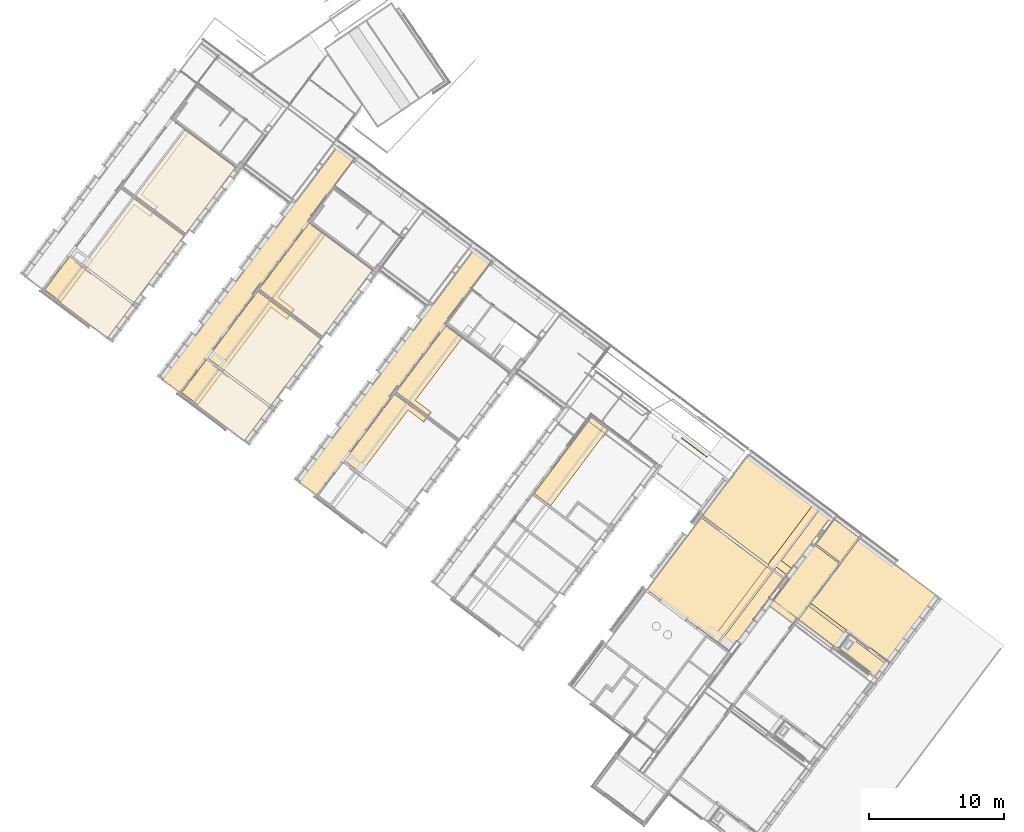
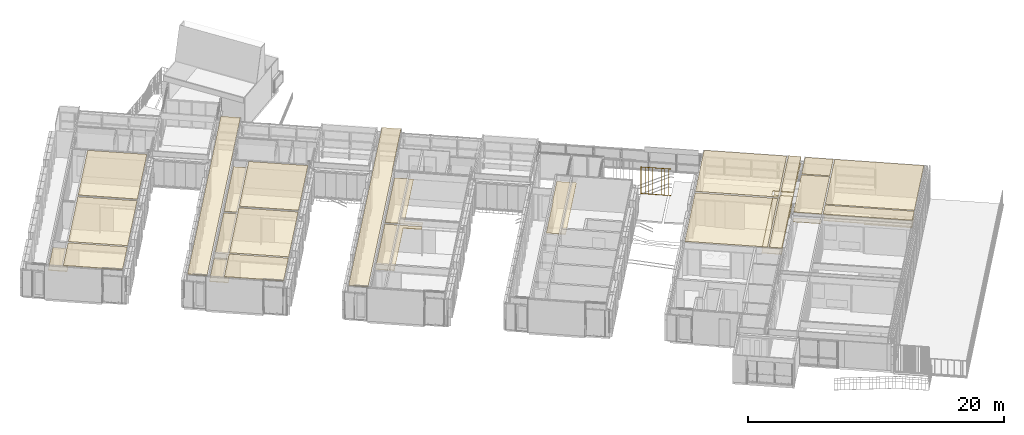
# One storey, part 218 of 243: 21 coverings, 1 railing.
"""IFC2X3 building model written with IfcOpenShell, lengths in metres."""

import ifcopenshell
import ifcopenshell.guid

model = None  # the IFC model being written
_history = None  # IfcOwnerHistory: only IFC2X3 demands one
_inside = {}  # id of a spatial element -> (the spatial element, [elements in it])
_under = {}  # id of a project, library or spatial element -> (it, [spatial elements below it])
_declared = {}  # id of a project -> (the project, [libraries it declares])
_typed = {}  # id of a type object -> (the type object, [elements of that type])
_made_of = {}  # id of a material, layer set ... -> (it, [elements and type objects made of it])


def new_model(schema):
    """Start an empty IFC model of exactly this schema.

    Asked for "IFC4X3", IfcOpenShell would pick the latest addendum, in which some entities
    have other attributes; the version numbers below select the first issue.
    IFC2X3 requires an IfcOwnerHistory on every rooted entity: one is made here for all.
    """
    global model, _history
    if schema == "IFC4X3":
        model = ifcopenshell.file(schema_version=(4, 3, 0, 0))
    else:
        model = ifcopenshell.file(schema=schema)
    _inside.clear()
    _under.clear()
    _declared.clear()
    _typed.clear()
    _made_of.clear()
    _history = None
    if model.schema == "IFC2X3":
        org = make("IfcOrganization", Name="unknown")
        user = make(
            "IfcPersonAndOrganization",
            ThePerson=make("IfcPerson", FamilyName="unknown"),
            TheOrganization=org,
        )
        app = make(
            "IfcApplication",
            ApplicationDeveloper=org,
            Version="unknown",
            ApplicationFullName="unknown",
            ApplicationIdentifier="unknown",
        )
        _history = make(
            "IfcOwnerHistory",
            OwningUser=user,
            OwningApplication=app,
            ChangeAction="ADDED",
            CreationDate=0,
        )
    return model


def make(cls, **values):
    """One entity of the class cls with the attributes given. An attribute that is None is left unset."""
    return model.create_entity(
        cls, **{name: value for name, value in values.items() if value is not None}
    )


def entity(cls, *values):
    """Any entity or typed value of the class cls, its attributes in the order of the schema. None: left unset."""
    e = model.create_entity(cls)
    for i, value in enumerate(values):
        if value is not None:
            e[i] = value
    return e


def rooted(cls, **values):
    """An entity with a GlobalId (a new one), such as an element, a storey or a relation."""
    return make(cls, GlobalId=ifcopenshell.guid.new(), OwnerHistory=_history, **values)


def si_unit(unit_type, name, prefix=None):
    """IfcSIUnit, for example si_unit("LENGTHUNIT", "METRE", prefix="MILLI")."""
    return make("IfcSIUnit", UnitType=unit_type, Prefix=prefix, Name=name)


def converted_unit(unit_type, name, factor, base, dimensions=None, offset=None):
    """IfcConversionBasedUnit, such as the inch: factor (a typed value) times the base unit."""
    return make(
        "IfcConversionBasedUnit"
        if offset is None
        else "IfcConversionBasedUnitWithOffset",
        ConversionOffset=offset,
        Dimensions=None
        if dimensions is None
        else entity("IfcDimensionalExponents", *dimensions),
        UnitType=unit_type,
        Name=name,
        ConversionFactor=make(
            "IfcMeasureWithUnit", ValueComponent=factor, UnitComponent=base
        ),
    )


def derived_unit(unit_type, elements):
    """IfcDerivedUnit: a product of units, each with its exponent."""
    return make(
        "IfcDerivedUnit",
        Elements=[
            make("IfcDerivedUnitElement", Unit=unit, Exponent=power)
            for unit, power in elements
        ],
        UnitType=unit_type,
    )


def assignment(units):
    """IfcUnitAssignment: the units of a project."""
    return None if units is None else make("IfcUnitAssignment", Units=units)


def point(xyz):
    """IfcCartesianPoint."""
    return None if xyz is None else make("IfcCartesianPoint", Coordinates=xyz)


def direction(xyz):
    """IfcDirection."""
    return None if xyz is None else make("IfcDirection", DirectionRatios=xyz)


def frame(location, z_axis=None, x_axis=None):
    """IfcAxis2Placement3D, a coordinate frame: its origin and axes. An axis left out is left unset."""
    return make(
        "IfcAxis2Placement3D",
        Location=point(location),
        Axis=direction(z_axis),
        RefDirection=direction(x_axis),
    )


def frame_2d(location, x_axis=None):
    """IfcAxis2Placement2D, a coordinate frame in the plane: its origin and x axis."""
    return make(
        "IfcAxis2Placement2D", Location=point(location), RefDirection=direction(x_axis)
    )


def origin():
    """The frame at (0, 0, 0) with its axes left unset."""
    return frame((0.0, 0.0, 0.0))


def place(relative_to, where):
    """IfcLocalPlacement: puts the frame where relative to a parent placement (None: the world)."""
    return make(
        "IfcLocalPlacement", PlacementRelTo=relative_to, RelativePlacement=where
    )


def context(
    kind, dimensions, precision=None, world=None, true_north=None, identifier=None
):
    """IfcGeometricRepresentationContext, for example the 3D "Model" context."""
    return make(
        "IfcGeometricRepresentationContext",
        ContextIdentifier=identifier,
        ContextType=kind,
        CoordinateSpaceDimension=dimensions,
        Precision=precision,
        WorldCoordinateSystem=world,
        TrueNorth=true_north,
    )


def subcontext(parent, identifier, kind, view, scale=None):
    """IfcGeometricRepresentationSubContext, for example "Body" below "Model"."""
    return make(
        "IfcGeometricRepresentationSubContext",
        ContextIdentifier=identifier,
        ContextType=kind,
        ParentContext=parent,
        TargetScale=scale,
        TargetView=view,
    )


def project(units=None, contexts=None):
    """IfcProject with its units and contexts."""
    return rooted(
        "IfcProject",
        Name="project",
        RepresentationContexts=contexts,
        UnitsInContext=assignment(units),
    )


def spatial(cls, under=None, at=None, **own):
    """A site, building, storey or space (cls), placed at a placement, below another one or the project."""
    s = rooted(cls, ObjectPlacement=at, **own)
    if under is not None:
        _under.setdefault(under.id(), (under, []))[1].append(s)
    return s


def polyline(points):
    """IfcPolyline through the points."""
    return make("IfcPolyline", Points=[point(p) for p in points])


def profile(cls, at=None, kind="AREA", **sizes):
    """A parametric profile (cls). Its sizes go by their IFC names, for example OverallWidth=200.0."""
    return make(cls, ProfileType=kind, Position=at, **sizes)


def rectangle(**sizes):
    """IfcRectangleProfileDef."""
    return profile("IfcRectangleProfileDef", **sizes)


def outline(outer, holes=None, kind="AREA"):
    """IfcArbitraryClosedProfileDef: a profile drawn as a closed curve; with holes, ...WithVoids."""
    if holes is None:
        return make("IfcArbitraryClosedProfileDef", ProfileType=kind, OuterCurve=outer)
    return make(
        "IfcArbitraryProfileDefWithVoids",
        ProfileType=kind,
        OuterCurve=outer,
        InnerCurves=holes,
    )


def extrude(swept, where, along, depth):
    """IfcExtrudedAreaSolid: the profile swept, set in the frame where, extruded along a direction by depth."""
    return make(
        "IfcExtrudedAreaSolid",
        SweptArea=swept,
        Position=where,
        ExtrudedDirection=direction(along),
        Depth=depth,
    )


def shape(context_of_items, identifier, shape_type, items):
    """IfcShapeRepresentation: the items that make up one representation, for example the "Body"."""
    return make(
        "IfcShapeRepresentation",
        ContextOfItems=context_of_items,
        RepresentationIdentifier=identifier,
        RepresentationType=shape_type,
        Items=items,
    )


def material(Name=None, Category=None):
    """IfcMaterial."""
    return make("IfcMaterial", Name=Name, Category=Category)


def layer(
    of_material, thickness, ventilated=None, Name=None, Category=None, Priority=None
):
    """IfcMaterialLayer: one layer of a wall or slab, of a material (None: an air gap)."""
    return make(
        "IfcMaterialLayer",
        Material=of_material,
        LayerThickness=thickness,
        IsVentilated=ventilated,
        Name=Name,
        Category=Category,
        Priority=Priority,
    )


def layer_set(layers, Name=None):
    """IfcMaterialLayerSet."""
    return make("IfcMaterialLayerSet", MaterialLayers=layers, LayerSetName=Name)


def layer_usage(for_layer_set, set_direction, sense, offset, extent=None):
    """IfcMaterialLayerSetUsage: how a layer set lies in its element."""
    return make(
        "IfcMaterialLayerSetUsage",
        ForLayerSet=for_layer_set,
        LayerSetDirection=set_direction,
        DirectionSense=sense,
        OffsetFromReferenceLine=offset,
        ReferenceExtent=extent,
    )


def made_of(thing, what):
    """Note that an element or type object is made of a material, layer set ...; save() writes the relation."""
    if what is not None:
        _made_of.setdefault(what.id(), (what, []))[1].append(thing)
    return thing


def type_object(cls, material=None, **own):
    """A type object (cls), such as IfcWallType, which elements share."""
    return made_of(rooted(cls, **own), material)


def element(
    cls,
    number,
    at=None,
    inside=None,
    cuts=None,
    type_object=None,
    material=None,
    context=None,
    identifier="Body",
    shape_type=None,
    held_by="IfcProductDefinitionShape",
    body=None,
    shapes=None,
    **own,
):
    """One element of the class cls, such as IfcWall. Its Tag is "e" and its number.

    at: its placement. inside: the storey or other place that contains it. cuts: it is an
    opening in that element (IfcRelVoidsElement). A single representation is given by context,
    identifier, shape_type and body (its items); several are given by shapes. held_by: the class
    of the entity that holds the representations. save() writes the other relations.
    """
    e = rooted(cls, Tag="e%d" % number, ObjectPlacement=at, **own)
    if body is not None:
        shapes = [shape(context, identifier, shape_type, body)]
    if shapes is not None:
        e.Representation = make(held_by, Representations=shapes)
    if inside is not None:
        _inside.setdefault(inside.id(), (inside, []))[1].append(e)
    if cuts is not None:
        rooted(
            "IfcRelVoidsElement", RelatingBuildingElement=cuts, RelatedOpeningElement=e
        )
    if type_object is not None:
        _typed.setdefault(type_object.id(), (type_object, []))[1].append(e)
    return made_of(e, material)


def aggregate(whole, parts):
    """IfcRelAggregates: a whole, such as a stair, and the parts it consists of."""
    return rooted("IfcRelAggregates", RelatingObject=whole, RelatedObjects=parts)


def save(model, path):
    """Write the relations noted so far, then the file.

    IfcRelAggregates (storeys below a building ...), IfcRelContainedInSpatialStructure (elements
    in a storey), IfcRelDefinesByType, IfcRelAssociatesMaterial and IfcRelDeclares: one each for
    every whole, place, type object, material and project.
    """
    for whole, parts in _under.values():
        aggregate(whole, parts)
    for where, things in _inside.values():
        rooted(
            "IfcRelContainedInSpatialStructure",
            RelatedElements=things,
            RelatingStructure=where,
        )
    for kind, things in _typed.values():
        rooted("IfcRelDefinesByType", RelatedObjects=things, RelatingType=kind)
    for what, things in _made_of.values():
        rooted("IfcRelAssociatesMaterial", RelatedObjects=things, RelatingMaterial=what)
    for by, libraries in _declared.values():
        rooted("IfcRelDeclares", RelatingContext=by, RelatedDefinitions=libraries)
    model.write(path)


model = new_model("IFC2X3")

# Units and contexts
model_context = context("Model", 3, precision=1e-05, world=origin(), true_north=direction((6.123031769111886e-17, 1.0)))
body_context = subcontext(model_context, "Body", "Model", "MODEL_VIEW")
ifc_project = project(units=[si_unit("LENGTHUNIT", "METRE"), si_unit("AREAUNIT", "SQUARE_METRE"), si_unit("VOLUMEUNIT", "CUBIC_METRE"), converted_unit("PLANEANGLEUNIT", "DEGREE", entity("IfcRatioMeasure", 0.017453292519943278), si_unit("PLANEANGLEUNIT", "RADIAN"), dimensions=[0, 0, 0, 0, 0, 0, 0]), si_unit("MASSUNIT", "GRAM", prefix="KILO"), derived_unit("MASSDENSITYUNIT", [(si_unit("MASSUNIT", "GRAM", prefix="KILO"), 1), (si_unit("LENGTHUNIT", "METRE"), -3)]), derived_unit("IONCONCENTRATIONUNIT", [(si_unit("MASSUNIT", "GRAM", prefix="KILO"), 1), (si_unit("LENGTHUNIT", "METRE"), -3)]), derived_unit("MOMENTOFINERTIAUNIT", [(si_unit("LENGTHUNIT", "METRE"), 4)]), si_unit("TIMEUNIT", "SECOND"), si_unit("FREQUENCYUNIT", "HERTZ"), si_unit("THERMODYNAMICTEMPERATUREUNIT", "DEGREE_CELSIUS"), derived_unit("THERMALTRANSMITTANCEUNIT", [(si_unit("MASSUNIT", "GRAM", prefix="KILO"), 1), (si_unit("THERMODYNAMICTEMPERATUREUNIT", "KELVIN"), -1), (si_unit("TIMEUNIT", "SECOND"), -3)]), derived_unit("THERMALCONDUCTANCEUNIT", [(si_unit("MASSUNIT", "GRAM", prefix="KILO"), 1), (si_unit("THERMODYNAMICTEMPERATUREUNIT", "KELVIN"), -1), (si_unit("TIMEUNIT", "SECOND"), -3), (si_unit("LENGTHUNIT", "METRE"), 1)]), derived_unit("VOLUMETRICFLOWRATEUNIT", [(si_unit("LENGTHUNIT", "METRE"), 3), (si_unit("TIMEUNIT", "SECOND"), -1)]), derived_unit("MASSFLOWRATEUNIT", [(si_unit("MASSUNIT", "GRAM", prefix="KILO"), 1), (si_unit("TIMEUNIT", "SECOND"), -1)]), derived_unit("ROTATIONALFREQUENCYUNIT", [(si_unit("TIMEUNIT", "SECOND"), -1)]), si_unit("ELECTRICCURRENTUNIT", "AMPERE"), si_unit("ELECTRICVOLTAGEUNIT", "VOLT"), si_unit("POWERUNIT", "WATT"), si_unit("FORCEUNIT", "NEWTON", prefix="KILO"), si_unit("ILLUMINANCEUNIT", "LUX"), si_unit("LUMINOUSFLUXUNIT", "LUMEN"), si_unit("LUMINOUSINTENSITYUNIT", "CANDELA"), derived_unit("USERDEFINED", [(si_unit("MASSUNIT", "GRAM", prefix="KILO"), -1), (si_unit("LENGTHUNIT", "METRE"), -2), (si_unit("TIMEUNIT", "SECOND"), 3), (si_unit("LUMINOUSFLUXUNIT", "LUMEN"), 1)]), derived_unit("USERDEFINED", [(si_unit("MASSUNIT", "GRAM", prefix="KILO"), 1), (si_unit("TIMEUNIT", "SECOND"), -3), (si_unit("LENGTHUNIT", "METRE"), 3), (si_unit("ELECTRICCURRENTUNIT", "AMPERE"), -2)]), derived_unit("SOUNDPOWERUNIT", [(si_unit("MASSUNIT", "GRAM", prefix="KILO"), 1), (si_unit("TIMEUNIT", "SECOND"), -3), (si_unit("LENGTHUNIT", "METRE"), 2)]), derived_unit("SOUNDPRESSUREUNIT", [(si_unit("MASSUNIT", "GRAM", prefix="KILO"), 1), (si_unit("LENGTHUNIT", "METRE"), -1), (si_unit("TIMEUNIT", "SECOND"), -2)]), derived_unit("LINEARVELOCITYUNIT", [(si_unit("LENGTHUNIT", "METRE"), 1), (si_unit("TIMEUNIT", "SECOND"), -1)]), si_unit("PRESSUREUNIT", "PASCAL"), derived_unit("USERDEFINED", [(si_unit("MASSUNIT", "GRAM", prefix="KILO"), 1), (si_unit("LENGTHUNIT", "METRE"), -2), (si_unit("TIMEUNIT", "SECOND"), -2)]), derived_unit("LINEARFORCEUNIT", [(si_unit("MASSUNIT", "GRAM", prefix="KILO"), 1), (si_unit("TIMEUNIT", "SECOND"), -2)]), derived_unit("PLANARFORCEUNIT", [(si_unit("MASSUNIT", "GRAM", prefix="KILO"), 1), (si_unit("LENGTHUNIT", "METRE"), -1), (si_unit("TIMEUNIT", "SECOND"), -2)]), derived_unit("SPECIFICHEATCAPACITYUNIT", [(si_unit("THERMODYNAMICTEMPERATUREUNIT", "KELVIN"), -1), (si_unit("LENGTHUNIT", "METRE"), 2), (si_unit("TIMEUNIT", "SECOND"), -2)]), derived_unit("HEATINGVALUEUNIT", [(si_unit("LENGTHUNIT", "METRE"), 2), (si_unit("TIMEUNIT", "SECOND"), -2)]), derived_unit("VAPORPERMEABILITYUNIT", [(si_unit("LENGTHUNIT", "METRE"), -1), (si_unit("TIMEUNIT", "SECOND"), 1)]), derived_unit("DYNAMICVISCOSITYUNIT", [(si_unit("MASSUNIT", "GRAM", prefix="KILO"), 1), (si_unit("TIMEUNIT", "SECOND"), -1), (si_unit("LENGTHUNIT", "METRE"), -1)]), derived_unit("THERMALEXPANSIONCOEFFICIENTUNIT", [(si_unit("THERMODYNAMICTEMPERATUREUNIT", "KELVIN"), -1)]), derived_unit("MODULUSOFELASTICITYUNIT", [(si_unit("MASSUNIT", "GRAM", prefix="KILO"), 1), (si_unit("LENGTHUNIT", "METRE"), -1), (si_unit("TIMEUNIT", "SECOND"), -2)]), derived_unit("ISOTHERMALMOISTURECAPACITYUNIT", [(si_unit("LENGTHUNIT", "METRE"), 3), (si_unit("MASSUNIT", "GRAM", prefix="KILO"), -1)]), derived_unit("MOISTUREDIFFUSIVITYUNIT", [(si_unit("TIMEUNIT", "SECOND"), -1), (si_unit("LENGTHUNIT", "METRE"), 2)])], contexts=[model_context])

# Site, building, storey
site_placement = place(None, frame((0.0, 0.0, 235.0), z_axis=(0.0, 0.0, 1.0), x_axis=(-0.7996477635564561, 0.6004693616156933, 0.0)))
site = spatial("IfcSite", under=ifc_project, at=site_placement, Name="Default", CompositionType="ELEMENT")
building_placement = place(site_placement, origin())
building = spatial("IfcBuilding", under=site, at=building_placement, CompositionType="ELEMENT")
storey_placement = place(building_placement, origin())
storey = spatial("IfcBuildingStorey", under=building, at=storey_placement, Name="P0- Escola", CompositionType="ELEMENT", Elevation=0.0)

# Coverings
ifc_material_1 = material(Name="_Aillament")
ifc_layer_1 = layer(ifc_material_1, 0.05)
ifc_material_2 = material(Name="_PYL- SOS")
ifc_layer_2 = layer(ifc_material_2, 0.015)
ifc_layer_set_1 = layer_set([ifc_layer_1, ifc_layer_2], Name="Techo compuesto:SOS- Guix Laminat- Aillament- 6,5 cm")
ifc_layer_usage_1 = layer_usage(ifc_layer_set_1, "AXIS3", "POSITIVE", 0.0)
covering_type_1 = type_object("IfcCoveringType", Name="Techo compuesto:SOS- Guix Laminat- Aillament- 6,5 cm", PredefinedType="CEILING")
covering_1_placement = place(storey_placement, frame((60.145147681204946, -42.04019175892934, 3.0850000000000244)))
element("IfcCovering", 1, at=covering_1_placement, inside=storey, type_object=covering_type_1, material=ifc_layer_usage_1, Name="Techo compuesto:SOS- Guix Laminat- Aillament- 6,5 cm", ObjectType="Techo compuesto:SOS- Guix Laminat- Aillament- 6,5 cm", PredefinedType="CEILING", context=body_context, shape_type="SweptSolid", body=[
    extrude(rectangle(XDim=21.68625000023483, YDim=1.5349999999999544, at=frame_2d((0.8465619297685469, 0.15350000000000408), x_axis=(1.0, 0.0))), frame((0.9209999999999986, 9.99656307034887, 0.0), z_axis=(0.0, 0.0, 1.0), x_axis=(0.0, 1.0, 0.0)), (0.0, 0.0, 1.0), 0.06499999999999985),
])
covering_2_placement = place(storey_placement, frame((47.44514768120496, -42.040191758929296, 3.0850000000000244)))
element("IfcCovering", 2, at=covering_2_placement, inside=storey, type_object=covering_type_1, material=ifc_layer_usage_1, Name="Techo compuesto:SOS- Guix Laminat- Aillament- 6,5 cm", ObjectType="Techo compuesto:SOS- Guix Laminat- Aillament- 6,5 cm", PredefinedType="CEILING", context=body_context, shape_type="SweptSolid", body=[
    extrude(outline(polyline([(2.958259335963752, -0.6342857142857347), (8.813259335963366, -0.6342857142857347), (8.813259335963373, 0.867714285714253), (2.2029439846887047, 0.8677142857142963), (-12.872990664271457, 0.8677142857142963), (-12.87299066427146, -0.6672857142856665), (2.958259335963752, -0.6672857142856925), (2.958259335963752, -0.6342857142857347)])), frame((0.6672857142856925, 8.813259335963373, 0.0), z_axis=(0.0, 0.0, 1.0), x_axis=(0.0, -1.0, 0.0)), (0.0, 0.0, 1.0), 0.06499999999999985),
])
covering_3_placement = place(storey_placement, frame((17.470147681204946, -36.13619175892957, 3.0849999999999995)))
element("IfcCovering", 3, at=covering_3_placement, inside=storey, type_object=covering_type_1, material=ifc_layer_usage_1, Name="Techo compuesto:SOS- Guix Laminat- Aillament- 6,5 cm", ObjectType="Techo compuesto:SOS- Guix Laminat- Aillament- 6,5 cm", PredefinedType="CEILING", context=body_context, shape_type="SweptSolid", body=[
    extrude(rectangle(XDim=6.110000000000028, YDim=6.670999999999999, at=frame_2d((-7.549516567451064e-15, 2.220446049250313e-15), x_axis=(1.0, 0.0))), frame((3.055000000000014, 3.3355000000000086, 0.0), z_axis=(0.0, 0.0, 1.0), x_axis=(-1.0, 0.0, 0.0)), (0.0, 0.0, 1.0), 0.06499999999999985),
])
covering_4_placement = place(storey_placement, frame((17.065147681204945, -41.97519175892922, 3.0850000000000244)))
element("IfcCovering", 4, at=covering_4_placement, inside=storey, type_object=covering_type_1, material=ifc_layer_usage_1, Name="Techo compuesto:SOS- Guix Laminat- Aillament- 6,5 cm", ObjectType="Techo compuesto:SOS- Guix Laminat- Aillament- 6,5 cm", PredefinedType="CEILING", context=body_context, shape_type="SweptSolid", body=[
    extrude(outline(polyline([(-1.6717490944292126, -1.7552500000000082), (-1.4477509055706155, -1.7552500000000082), (-1.4477509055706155, -1.2492499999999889), (-0.8477509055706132, -1.2492499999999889), (-0.8477509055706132, -1.755250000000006), (3.9672509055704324, -1.7552499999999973), (3.9672509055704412, 4.759750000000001), (-1.6717490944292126, 4.759750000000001), (-1.6717490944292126, -1.7552500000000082)])), frame((1.7552500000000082, 3.9672509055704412, 0.0), z_axis=(0.0, 0.0, 1.0), x_axis=(0.0, -1.0, 0.0)), (0.0, 0.0, 1.0), 0.06499999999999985),
])
covering_5_placement = place(storey_placement, frame((17.06514768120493, -36.13619175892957, 3.0849999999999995)))
element("IfcCovering", 5, at=covering_5_placement, inside=storey, type_object=covering_type_1, material=ifc_layer_usage_1, Name="Techo compuesto:SOS- Guix Laminat- Aillament- 6,5 cm", ObjectType="Techo compuesto:SOS- Guix Laminat- Aillament- 6,5 cm", PredefinedType="CEILING", context=body_context, shape_type="SweptSolid", body=[
    extrude(rectangle(XDim=6.515000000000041, YDim=6.670999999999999, at=frame_2d((-6.439293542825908e-15, 2.220446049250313e-15), x_axis=(1.0, 0.0))), frame((3.257500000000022, 3.3355000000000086, 0.0), z_axis=(0.0, 0.0, 1.0), x_axis=(-1.0, 0.0, 0.0)), (0.0, 0.0, 1.0), 0.06499999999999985),
])
covering_6_placement = place(storey_placement, frame((13.391147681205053, -41.975191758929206, 3.0849999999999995)))
element("IfcCovering", 6, at=covering_6_placement, inside=storey, type_object=covering_type_1, material=ifc_layer_usage_1, Name="Techo compuesto:SOS- Guix Laminat- Aillament- 6,5 cm", ObjectType="Techo compuesto:SOS- Guix Laminat- Aillament- 6,5 cm", PredefinedType="CEILING", context=body_context, shape_type="SweptSolid", body=[
    extrude(rectangle(XDim=2.2849999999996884, YDim=2.218999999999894, at=frame_2d((0.0, -1.1102230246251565e-15), x_axis=(1.0, 0.0))), frame((1.1094999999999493, 1.1424999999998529, 0.0), z_axis=(0.0, 0.0, 1.0), x_axis=(0.0, 1.0, 0.0)), (0.0, 0.0, 1.0), 0.06499999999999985),
])
covering_7_placement = place(storey_placement, frame((6.250147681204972, -35.69119175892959, 3.0849999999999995)))
element("IfcCovering", 7, at=covering_7_placement, inside=storey, type_object=covering_type_1, material=ifc_layer_usage_1, Name="Techo compuesto:SOS- Guix Laminat- Aillament- 6,5 cm", ObjectType="Techo compuesto:SOS- Guix Laminat- Aillament- 6,5 cm", PredefinedType="CEILING", context=body_context, shape_type="SweptSolid", body=[
    extrude(rectangle(XDim=7.029999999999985, YDim=1.2360000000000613, at=frame_2d((4.440892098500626e-16, -2.1649348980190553e-15), x_axis=(1.0, 0.0))), frame((3.5149999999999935, 0.618000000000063, 0.0), z_axis=(0.0, 0.0, 1.0), x_axis=(-1.0, 0.0, 0.0)), (0.0, 0.0, 1.0), 0.06499999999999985),
])
covering_8_placement = place(storey_placement, frame((15.945147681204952, -42.04019175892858, 3.0849999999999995)))
element("IfcCovering", 8, at=covering_8_placement, inside=storey, type_object=covering_type_1, material=ifc_layer_usage_1, Name="Techo compuesto:SOS- Guix Laminat- Aillament- 6,5 cm", ObjectType="Techo compuesto:SOS- Guix Laminat- Aillament- 6,5 cm", PredefinedType="CEILING", context=body_context, shape_type="SweptSolid", body=[
    extrude(rectangle(XDim=4.880001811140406, YDim=0.9900000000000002, at=frame_2d((0.0, -4.3298697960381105e-15), x_axis=(1.0, 0.0))), frame((0.4950000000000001, 2.4400009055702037, 0.0), z_axis=(0.0, 0.0, 1.0), x_axis=(0.0, 1.0, 0.0)), (0.0, 0.0, 1.0), 0.06499999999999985),
    extrude(rectangle(XDim=7.09499818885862, YDim=0.9899999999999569, at=frame_2d((0.0, 6.494804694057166e-15), x_axis=(1.0, 0.0))), frame((0.4950000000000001, 9.02750090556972, 0.0), z_axis=(0.0, 0.0, 1.0), x_axis=(0.0, -1.0, 0.0)), (0.0, 0.0, 1.0), 0.06499999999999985),
])
covering_9_placement = place(storey_placement, frame((54.110147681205, -36.1751917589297, 3.0849999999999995)))
element("IfcCovering", 9, at=covering_9_placement, inside=storey, type_object=covering_type_1, material=ifc_layer_usage_1, Name="Techo compuesto:SOS- Guix Laminat- Aillament- 6,5 cm", ObjectType="Techo compuesto:SOS- Guix Laminat- Aillament- 6,5 cm", PredefinedType="CEILING", context=body_context, shape_type="SweptSolid", body=[
    extrude(rectangle(XDim=6.141001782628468, YDim=4.667999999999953, at=frame_2d((1.9984014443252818e-15, 0.0), x_axis=(1.0, 0.0))), frame((2.333999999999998, 3.0705008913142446, 0.0), z_axis=(0.0, 0.0, 1.0), x_axis=(0.0, 1.0, 0.0)), (0.0, 0.0, 1.0), 0.06499999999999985),
    extrude(rectangle(XDim=3.100248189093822, YDim=4.66799999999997, at=frame_2d((2.1094237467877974e-15, 0.0), x_axis=(1.0, 0.0))), frame((2.3339999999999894, 14.271125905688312, 0.0), z_axis=(0.0, 0.0, 1.0), x_axis=(0.0, 1.0, 0.0)), (0.0, 0.0, 1.0), 0.06499999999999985),
    extrude(rectangle(XDim=6.1650000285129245, YDim=4.667999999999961, at=frame_2d((4.218847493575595e-15, 4.440892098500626e-15), x_axis=(1.0, 0.0))), frame((2.333999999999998, 9.46150179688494, 0.0), z_axis=(0.0, 0.0, 1.0), x_axis=(0.0, 1.0, 0.0)), (0.0, 0.0, 1.0), 0.06499999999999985),
])
covering_10_placement = place(storey_placement, frame((66.810147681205, -36.17519175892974, 3.0849999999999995)))
element("IfcCovering", 10, at=covering_10_placement, inside=storey, type_object=covering_type_1, material=ifc_layer_usage_1, Name="Techo compuesto:SOS- Guix Laminat- Aillament- 6,5 cm", ObjectType="Techo compuesto:SOS- Guix Laminat- Aillament- 6,5 cm", PredefinedType="CEILING", context=body_context, shape_type="SweptSolid", body=[
    extrude(rectangle(XDim=6.141001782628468, YDim=4.667999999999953, at=frame_2d((6.439293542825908e-15, 0.0), x_axis=(1.0, 0.0))), frame((2.333999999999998, 3.07050089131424, 0.0), z_axis=(0.0, 0.0, 1.0), x_axis=(0.0, 1.0, 0.0)), (0.0, 0.0, 1.0), 0.06499999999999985),
    extrude(rectangle(XDim=3.100248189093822, YDim=4.66799999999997, at=frame_2d((-2.1094237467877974e-15, 0.0), x_axis=(1.0, 0.0))), frame((2.3339999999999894, 14.271125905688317, 0.0), z_axis=(0.0, 0.0, 1.0), x_axis=(0.0, 1.0, 0.0)), (0.0, 0.0, 1.0), 0.06499999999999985),
    extrude(rectangle(XDim=6.1650000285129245, YDim=4.667999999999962, at=frame_2d((4.218847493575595e-15, -4.440892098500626e-15), x_axis=(1.0, 0.0))), frame((2.3339999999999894, 9.46150179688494, 0.0), z_axis=(0.0, 0.0, 1.0), x_axis=(0.0, 1.0, 0.0)), (0.0, 0.0, 1.0), 0.06499999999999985),
])
covering_11_placement = place(storey_placement, frame((6.25014768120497, -41.9751917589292, 3.0849999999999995)))
element("IfcCovering", 11, at=covering_11_placement, inside=storey, type_object=covering_type_1, material=ifc_layer_usage_1, Name="Techo compuesto:SOS- Guix Laminat- Aillament- 6,5 cm", ObjectType="Techo compuesto:SOS- Guix Laminat- Aillament- 6,5 cm", PredefinedType="CEILING", context=body_context, shape_type="SweptSolid", body=[
    extrude(rectangle(XDim=6.153999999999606, YDim=7.029999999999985, at=frame_2d((4.440892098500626e-15, 2.220446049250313e-15), x_axis=(1.0, 0.0))), frame((3.5149999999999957, 3.076999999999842, 0.0), z_axis=(0.0, 0.0, 1.0), x_axis=(0.0, -1.0, 0.0)), (0.0, 0.0, 1.0), 0.06499999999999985),
])
covering_12_placement = place(storey_placement, frame((13.391147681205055, -39.56019175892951, 3.0849999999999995)))
element("IfcCovering", 12, at=covering_12_placement, inside=storey, type_object=covering_type_1, material=ifc_layer_usage_1, Name="Techo compuesto:SOS- Guix Laminat- Aillament- 6,5 cm", ObjectType="Techo compuesto:SOS- Guix Laminat- Aillament- 6,5 cm", PredefinedType="CEILING", context=body_context, shape_type="SweptSolid", body=[
    extrude(rectangle(XDim=2.2189999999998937, YDim=5.104999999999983, at=frame_2d((1.1102230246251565e-15, 0.0), x_axis=(1.0, 0.0))), frame((1.1094999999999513, 2.5524999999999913, 0.0)), (0.0, 0.0, 1.0), 0.06499999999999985),
])
ifc_layer_3 = layer(ifc_material_1, 0.02)
ifc_layer_4 = layer(ifc_material_2, 0.015)
ifc_layer_set_2 = layer_set([ifc_layer_3, ifc_layer_4], Name="Techo compuesto:SOS- Guix Laminat- Aillament- 3,5 cm")
ifc_layer_usage_2 = layer_usage(ifc_layer_set_2, "AXIS3", "POSITIVE", 0.0)
covering_type_2 = type_object("IfcCoveringType", Name="Techo compuesto:SOS- Guix Laminat- Aillament- 3,5 cm", PredefinedType="CEILING")
covering_13_placement = place(storey_placement, frame((13.410147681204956, -34.45519175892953, 2.5650000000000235)))
element("IfcCovering", 13, at=covering_13_placement, inside=storey, type_object=covering_type_2, material=ifc_layer_usage_2, Name="Techo compuesto:SOS- Guix Laminat- Aillament- 3,5 cm", ObjectType="Techo compuesto:SOS- Guix Laminat- Aillament- 3,5 cm", PredefinedType="CEILING", context=body_context, shape_type="SweptSolid", body=[
    extrude(rectangle(XDim=2.2000000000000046, YDim=0.5300000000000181, at=frame_2d((0.22000000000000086, -0.04000000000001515), x_axis=(1.0, 0.0))), frame((1.3200000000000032, 0.22500000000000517, 0.0), z_axis=(0.0, 0.0, 1.0), x_axis=(-1.0, 0.0, 0.0)), (0.0, 0.0, 1.0), 0.03500000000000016),
])
ifc_material_3 = material(Name="_Fusta massisa- T1")
ifc_layer_5 = layer(ifc_material_3, 0.06)
ifc_layer_set_3 = layer_set([ifc_layer_5], Name="Techo compuesto:SOS- Fusta- Revestiment- 6 cm")
ifc_layer_usage_3 = layer_usage(ifc_layer_set_3, "AXIS3", "POSITIVE", 0.0)
covering_type_3 = type_object("IfcCoveringType", Name="Techo compuesto:SOS- Fusta- Revestiment- 6 cm", PredefinedType="CEILING")
covering_14_placement = place(storey_placement, frame((15.945147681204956, -42.04019175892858, 2.50500000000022)))
element("IfcCovering", 14, at=covering_14_placement, inside=storey, type_object=covering_type_3, material=ifc_layer_usage_3, Name="Techo compuesto:SOS- Fusta- Revestiment- 6 cm", ObjectType="Techo compuesto:SOS- Fusta- Revestiment- 6 cm", PredefinedType="CEILING", context=body_context, shape_type="SweptSolid", body=[
    extrude(outline(polyline([(0.5150588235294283, -1.167853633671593), (0.5650588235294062, -1.167853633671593), (0.5650588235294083, 0.6256472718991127), (0.5650588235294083, 0.7771472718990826), (0.5150588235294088, 0.7771472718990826), (0.5150588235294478, 3.8371472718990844), (0.5650588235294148, 3.8371472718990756), (0.5650588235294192, 6.429647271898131), (-1.0229411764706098, 6.42964727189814), (-1.022941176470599, 0.725647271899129), (-0.961941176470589, 0.725647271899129), (-0.961941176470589, 0.4586472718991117), (-1.022941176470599, 0.4586472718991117), (-1.022941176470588, -6.145352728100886), (0.5650588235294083, -6.1453527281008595), (0.5650588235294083, -5.227853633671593), (0.5150588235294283, -5.227853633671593), (0.5150588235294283, -1.167853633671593)])), frame((0.5650588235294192, 6.42964727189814, 0.0), z_axis=(0.0, 0.0, 1.0), x_axis=(-1.0, 0.0, 0.0)), (0.0, 0.0, 1.0), 0.059999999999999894),
])
covering_15_placement = place(storey_placement, frame((6.250147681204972, -35.94019175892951, 2.5050000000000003)))
element("IfcCovering", 15, at=covering_15_placement, inside=storey, type_object=covering_type_3, material=ifc_layer_usage_3, Name="Techo compuesto:SOS- Fusta- Revestiment- 6 cm", ObjectType="Techo compuesto:SOS- Fusta- Revestiment- 6 cm", PredefinedType="CEILING", context=body_context, shape_type="SweptSolid", body=[
    extrude(rectangle(XDim=6.988999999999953, YDim=1.5000000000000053, at=frame_2d((-1.1102230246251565e-15, 0.0), x_axis=(1.0, 0.0))), frame((3.4944999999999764, 0.7500000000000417, 0.0), z_axis=(0.0, 0.0, 1.0), x_axis=(-1.0, 0.0, 0.0)), (0.0, 0.0, 1.0), 0.059999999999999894),
])
covering_16_placement = place(storey_placement, frame((33.062147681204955, -37.201191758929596, 2.5050000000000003)))
element("IfcCovering", 16, at=covering_16_placement, inside=storey, type_object=covering_type_3, material=ifc_layer_usage_3, Name="Techo compuesto:SOS- Fusta- Revestiment- 6 cm", ObjectType="Techo compuesto:SOS- Fusta- Revestiment- 6 cm", PredefinedType="CEILING", context=body_context, shape_type="SweptSolid", body=[
    extrude(outline(polyline([(-3.7953333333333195, -1.0225000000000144), (3.2756666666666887, -1.0225000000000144), (3.2756666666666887, 0.5304999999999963), (0.5196666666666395, 0.530499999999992), (0.5196666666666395, 0.49200000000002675), (-3.7953333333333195, 0.4920000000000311), (-3.7953333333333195, -1.0225000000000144)])), frame((1.0225000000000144, 3.2756666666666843, 0.0), z_axis=(0.0, 0.0, 1.0), x_axis=(0.0, -1.0, 0.0)), (0.0, 0.0, 1.0), 0.059999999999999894),
])
covering_17_placement = place(storey_placement, frame((6.250147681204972, -35.9401917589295, 2.505000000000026)))
element("IfcCovering", 17, at=covering_17_placement, inside=storey, type_object=covering_type_3, material=ifc_layer_usage_3, Name="Techo compuesto:SOS- Fusta- Revestiment- 6 cm", ObjectType="Techo compuesto:SOS- Fusta- Revestiment- 6 cm", PredefinedType="CEILING", context=body_context, shape_type="SweptSolid", body=[
    extrude(outline(polyline([(-0.18899999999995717, -0.5933309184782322), (3.5889999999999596, -0.5933309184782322), (3.5889999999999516, 1.046665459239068), (-3.4000000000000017, 1.0466654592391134), (-3.399999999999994, -0.4533345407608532), (-0.18899999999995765, -0.4533345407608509), (-0.18899999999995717, -0.5933309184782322)])), frame((3.5889999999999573, 1.0466654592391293, 0.0), z_axis=(0.0, 0.0, 1.0), x_axis=(-1.0, 0.0, 0.0)), (0.0, 0.0, 1.0), 0.059999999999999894),
])
covering_18_placement = place(storey_placement, frame((44.344147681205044, -36.16018997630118, 2.5050000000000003)))
element("IfcCovering", 18, at=covering_18_placement, inside=storey, type_object=covering_type_3, material=ifc_layer_usage_3, Name="Techo compuesto:SOS- Fusta- Revestiment- 6 cm", ObjectType="Techo compuesto:SOS- Fusta- Revestiment- 6 cm", PredefinedType="CEILING", context=body_context, shape_type="SweptSolid", body=[
    extrude(outline(polyline([(-3.9720000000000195, -1.4786666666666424), (2.1539999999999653, -1.4786666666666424), (2.1539999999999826, 1.4573333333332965), (1.818000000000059, 1.4573333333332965), (1.8180000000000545, 0.021333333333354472), (-3.9720000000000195, 0.021333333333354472), (-3.9720000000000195, -1.4786666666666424)])), frame((1.4573333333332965, 3.9720000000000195, 0.0), z_axis=(0.0, 0.0, 1.0), x_axis=(0.0, 1.0, 0.0)), (0.0, 0.0, 1.0), 0.059999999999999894),
    extrude(outline(polyline([(-2.1669988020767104, -1.4786666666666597), (3.997997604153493, -1.4786666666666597), (3.997997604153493, 0.021333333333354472), (-1.8309988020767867, 0.021333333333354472), (-1.8309988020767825, 1.4573333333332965), (-2.1669988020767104, 1.4573333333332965), (-2.1669988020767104, -1.4786666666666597)])), frame((1.4573333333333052, 8.531002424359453, 0.0), z_axis=(0.0, 0.0, 1.0), x_axis=(0.0, 1.0, 0.0)), (0.0, 0.0, 1.0), 0.059999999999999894),
])
covering_19_placement = place(storey_placement, frame((57.04414768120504, -36.160189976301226, 2.5050000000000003)))
element("IfcCovering", 19, at=covering_19_placement, inside=storey, type_object=covering_type_3, material=ifc_layer_usage_3, Name="Techo compuesto:SOS- Fusta- Revestiment- 6 cm", ObjectType="Techo compuesto:SOS- Fusta- Revestiment- 6 cm", PredefinedType="CEILING", context=body_context, shape_type="SweptSolid", body=[
    extrude(outline(polyline([(-3.972000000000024, -1.478666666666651), (2.153999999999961, -1.478666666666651), (2.153999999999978, 1.4573333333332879), (1.8180000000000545, 1.4573333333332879), (1.8180000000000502, 0.02133333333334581), (-3.972000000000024, 0.02133333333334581), (-3.972000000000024, -1.478666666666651)])), frame((1.4573333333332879, 3.972000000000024, 0.0), z_axis=(0.0, 0.0, 1.0), x_axis=(0.0, 1.0, 0.0)), (0.0, 0.0, 1.0), 0.059999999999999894),
    extrude(outline(polyline([(-2.166998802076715, -1.478666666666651), (3.9979976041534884, -1.478666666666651), (3.9979976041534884, 0.021333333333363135), (-1.830998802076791, 0.021333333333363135), (-1.8309988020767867, 1.4573333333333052), (-2.166998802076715, 1.4573333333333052), (-2.166998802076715, -1.478666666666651)])), frame((1.4573333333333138, 8.531002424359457, 0.0), z_axis=(0.0, 0.0, 1.0), x_axis=(0.0, 1.0, 0.0)), (0.0, 0.0, 1.0), 0.059999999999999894),
])
covering_20_placement = place(storey_placement, frame((58.48014768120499, -23.550189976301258, 2.5050000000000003)))
element("IfcCovering", 20, at=covering_20_placement, inside=storey, type_object=covering_type_3, material=ifc_layer_usage_3, Name="Techo compuesto:SOS- Fusta- Revestiment- 6 cm", ObjectType="Techo compuesto:SOS- Fusta- Revestiment- 6 cm", PredefinedType="CEILING", context=body_context, shape_type="SweptSolid", body=[
    extrude(outline(polyline([(-0.5993333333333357, 0.9793339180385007), (-0.5993333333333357, -2.0546678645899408), (0.9006666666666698, -2.0546678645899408), (0.9006666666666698, 1.0753339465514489), (-0.30133333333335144, 1.0753339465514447), (-0.30133333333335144, 0.9793339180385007), (-0.5993333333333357, 0.9793339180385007)])), frame((0.5993333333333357, 1.0753339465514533, 0.0), z_axis=(0.0, 0.0, -1.0), x_axis=(1.0, 0.0, 0.0)), (0.0, 0.0, -1.0), 0.059999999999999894),
])
covering_21_placement = place(storey_placement, frame((71.18014768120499, -23.5501899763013, 2.5050000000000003)))
element("IfcCovering", 21, at=covering_21_placement, inside=storey, type_object=covering_type_3, material=ifc_layer_usage_3, Name="Techo compuesto:SOS- Fusta- Revestiment- 6 cm", ObjectType="Techo compuesto:SOS- Fusta- Revestiment- 6 cm", PredefinedType="CEILING", context=body_context, shape_type="SweptSolid", body=[
    extrude(outline(polyline([(-0.5993333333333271, 0.9793339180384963), (-0.5993333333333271, -2.054667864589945), (0.9006666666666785, -2.054667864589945), (0.9006666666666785, 1.0753339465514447), (-0.3013333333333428, 1.0753339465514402), (-0.3013333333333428, 0.9793339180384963), (-0.5993333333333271, 0.9793339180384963)])), frame((0.5993333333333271, 1.0753339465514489, 0.0), z_axis=(0.0, 0.0, -1.0), x_axis=(1.0, 0.0, 0.0)), (0.0, 0.0, -1.0), 0.059999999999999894),
])

# Railing
ifc_material_4 = material(Name="<Unnamed>")
railing_placement = place(storey_placement, frame((25.935147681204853, -40.02519175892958, 0.0)))
element("IfcRailing", 22, at=railing_placement, inside=storey, material=ifc_material_4, Name="Barandilla:BaranaAlta_01", ObjectType="Barandilla:BaranaAlta_01", PredefinedType="NOTDEFINED", context=body_context, shape_type="SweptSolid", body=[
    extrude(rectangle(XDim=0.0499999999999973, YDim=0.010000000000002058, at=frame_2d((-4.3298697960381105e-15, -2.1658022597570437e-15), x_axis=(1.0, 0.0))), frame((0.08500000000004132, 0.03500000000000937, 0.00999999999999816), z_axis=(0.0, 0.0, 1.0), x_axis=(0.0, 1.0, 0.0)), (0.0, 0.0, 1.0), 2.5199999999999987),
    extrude(rectangle(XDim=0.0499999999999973, YDim=0.010000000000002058, at=frame_2d((-4.3298697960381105e-15, -2.1658022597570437e-15), x_axis=(1.0, 0.0))), frame((0.2250000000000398, 0.03500000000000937, 0.00999999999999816), z_axis=(0.0, 0.0, 1.0), x_axis=(0.0, 1.0, 0.0)), (0.0, 0.0, 1.0), 2.5199999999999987),
    extrude(rectangle(XDim=0.0499999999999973, YDim=0.010000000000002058, at=frame_2d((-4.3298697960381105e-15, -2.1658022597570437e-15), x_axis=(1.0, 0.0))), frame((0.3650000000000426, 0.03500000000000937, 0.00999999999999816), z_axis=(0.0, 0.0, 1.0), x_axis=(0.0, 1.0, 0.0)), (0.0, 0.0, 1.0), 2.5199999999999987),
    extrude(rectangle(XDim=0.0499999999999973, YDim=0.010000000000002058, at=frame_2d((-4.3298697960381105e-15, 2.1658022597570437e-15), x_axis=(1.0, 0.0))), frame((0.5050000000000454, 0.03500000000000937, 0.00999999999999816), z_axis=(0.0, 0.0, 1.0), x_axis=(0.0, 1.0, 0.0)), (0.0, 0.0, 1.0), 2.5199999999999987),
    extrude(rectangle(XDim=0.0499999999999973, YDim=0.010000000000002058, at=frame_2d((-4.3298697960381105e-15, 2.1658022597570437e-15), x_axis=(1.0, 0.0))), frame((0.645000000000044, 0.03500000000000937, 0.00999999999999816), z_axis=(0.0, 0.0, 1.0), x_axis=(0.0, 1.0, 0.0)), (0.0, 0.0, 1.0), 2.5199999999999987),
    extrude(rectangle(XDim=0.0499999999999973, YDim=0.010000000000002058, at=frame_2d((-4.3298697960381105e-15, -2.1658022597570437e-15), x_axis=(1.0, 0.0))), frame((0.7850000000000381, 0.03500000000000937, 0.00999999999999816), z_axis=(0.0, 0.0, 1.0), x_axis=(0.0, 1.0, 0.0)), (0.0, 0.0, 1.0), 2.5199999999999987),
    extrude(rectangle(XDim=0.0499999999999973, YDim=0.010000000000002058, at=frame_2d((-4.3298697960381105e-15, -2.1658022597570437e-15), x_axis=(1.0, 0.0))), frame((0.9250000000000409, 0.03500000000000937, 0.00999999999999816), z_axis=(0.0, 0.0, 1.0), x_axis=(0.0, 1.0, 0.0)), (0.0, 0.0, 1.0), 2.5199999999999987),
    extrude(rectangle(XDim=0.0499999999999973, YDim=0.010000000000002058, at=frame_2d((-4.3298697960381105e-15, -2.1658022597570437e-15), x_axis=(1.0, 0.0))), frame((1.0650000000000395, 0.03500000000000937, 0.00999999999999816), z_axis=(0.0, 0.0, 1.0), x_axis=(0.0, 1.0, 0.0)), (0.0, 0.0, 1.0), 2.5199999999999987),
    extrude(rectangle(XDim=0.0499999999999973, YDim=0.010000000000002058, at=frame_2d((4.3298697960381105e-15, -2.1658022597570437e-15), x_axis=(1.0, 0.0))), frame((1.2050000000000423, 0.034999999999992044, 0.00999999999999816), z_axis=(0.0, 0.0, 1.0), x_axis=(0.0, 1.0, 0.0)), (0.0, 0.0, 1.0), 2.5199999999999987),
    extrude(rectangle(XDim=0.0499999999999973, YDim=0.010000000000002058, at=frame_2d((4.3298697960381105e-15, -2.1658022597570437e-15), x_axis=(1.0, 0.0))), frame((1.3450000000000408, 0.034999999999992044, 0.00999999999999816), z_axis=(0.0, 0.0, 1.0), x_axis=(0.0, 1.0, 0.0)), (0.0, 0.0, 1.0), 2.5199999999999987),
    extrude(rectangle(XDim=0.0499999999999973, YDim=0.010000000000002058, at=frame_2d((4.3298697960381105e-15, 2.1658022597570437e-15), x_axis=(1.0, 0.0))), frame((1.4850000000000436, 0.034999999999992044, 0.00999999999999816), z_axis=(0.0, 0.0, 1.0), x_axis=(0.0, 1.0, 0.0)), (0.0, 0.0, 1.0), 2.5199999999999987),
    extrude(rectangle(XDim=0.0499999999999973, YDim=0.010000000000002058, at=frame_2d((4.3298697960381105e-15, -2.1658022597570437e-15), x_axis=(1.0, 0.0))), frame((1.6250000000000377, 0.034999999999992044, 0.00999999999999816), z_axis=(0.0, 0.0, 1.0), x_axis=(0.0, 1.0, 0.0)), (0.0, 0.0, 1.0), 2.5199999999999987),
    extrude(rectangle(XDim=0.0499999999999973, YDim=0.010000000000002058, at=frame_2d((4.3298697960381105e-15, -2.1658022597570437e-15), x_axis=(1.0, 0.0))), frame((1.7650000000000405, 0.034999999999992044, 0.00999999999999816), z_axis=(0.0, 0.0, 1.0), x_axis=(0.0, 1.0, 0.0)), (0.0, 0.0, 1.0), 2.5199999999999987),
    extrude(rectangle(XDim=0.0499999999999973, YDim=0.010000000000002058, at=frame_2d((4.3298697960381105e-15, -2.1658022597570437e-15), x_axis=(1.0, 0.0))), frame((1.905000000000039, 0.034999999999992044, 0.00999999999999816), z_axis=(0.0, 0.0, 1.0), x_axis=(0.0, 1.0, 0.0)), (0.0, 0.0, 1.0), 2.5199999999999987),
    extrude(rectangle(XDim=0.0499999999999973, YDim=0.010000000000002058, at=frame_2d((4.3298697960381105e-15, -2.1658022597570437e-15), x_axis=(1.0, 0.0))), frame((2.045000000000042, 0.034999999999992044, 0.00999999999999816), z_axis=(0.0, 0.0, 1.0), x_axis=(0.0, 1.0, 0.0)), (0.0, 0.0, 1.0), 2.5199999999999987),
    extrude(rectangle(XDim=0.0499999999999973, YDim=0.010000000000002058, at=frame_2d((4.3298697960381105e-15, 2.1658022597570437e-15), x_axis=(1.0, 0.0))), frame((2.185000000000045, 0.034999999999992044, 0.00999999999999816), z_axis=(0.0, 0.0, 1.0), x_axis=(0.0, 1.0, 0.0)), (0.0, 0.0, 1.0), 2.5199999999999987),
    extrude(rectangle(XDim=0.0499999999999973, YDim=0.010000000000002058, at=frame_2d((4.3298697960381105e-15, 2.1658022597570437e-15), x_axis=(1.0, 0.0))), frame((2.3250000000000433, 0.034999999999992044, 0.00999999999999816), z_axis=(0.0, 0.0, 1.0), x_axis=(0.0, 1.0, 0.0)), (0.0, 0.0, 1.0), 2.5199999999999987),
    extrude(rectangle(XDim=0.07000000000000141, YDim=0.010000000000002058, at=frame_2d((0.0, -2.1658022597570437e-15), x_axis=(1.0, 0.0))), frame((0.004999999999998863, 0.03500000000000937, 0.00999999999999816), z_axis=(0.0, 0.0, 1.0), x_axis=(0.0, 1.0, 0.0)), (0.0, 0.0, 1.0), 2.5199999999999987),
    extrude(rectangle(XDim=0.07000000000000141, YDim=0.010000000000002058, at=frame_2d((0.0, -2.1658022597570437e-15), x_axis=(1.0, 0.0))), frame((2.4050000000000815, 0.035000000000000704, 0.00999999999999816), z_axis=(0.0, 0.0, 1.0), x_axis=(0.0, 1.0, 0.0)), (0.0, 0.0, 1.0), 2.5199999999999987),
    extrude(rectangle(XDim=2.4000000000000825, YDim=0.07000000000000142, at=frame_2d((2.1094237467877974e-15, 4.333339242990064e-15), x_axis=(1.0, 0.0))), frame((1.2100000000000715, 0.03500000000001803, 2.5300000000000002), z_axis=(0.0, 0.0, 1.0), x_axis=(-1.0, 0.0, 0.0)), (0.0, 0.0, 1.0), 0.009999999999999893),
    extrude(rectangle(XDim=2.4000000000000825, YDim=0.07000000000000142, at=frame_2d((2.1094237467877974e-15, 4.333339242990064e-15), x_axis=(1.0, 0.0))), frame((1.2100000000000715, 0.03500000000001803, 0.0), z_axis=(0.0, 0.0, 1.0), x_axis=(-1.0, 0.0, 0.0)), (0.0, 0.0, 1.0), 0.009999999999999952),
])

save(model, "model.ifc")
